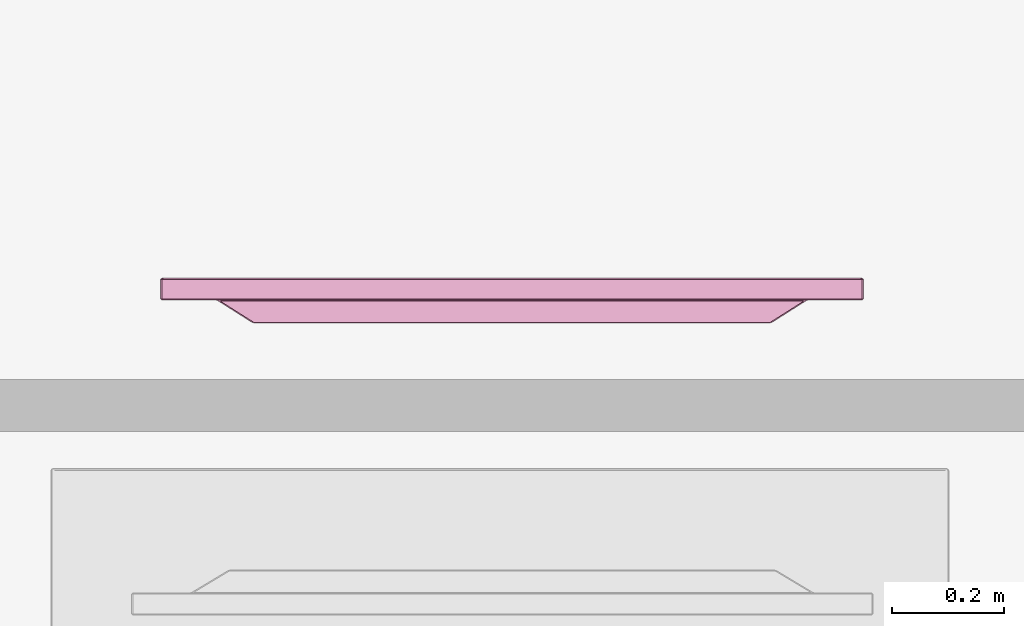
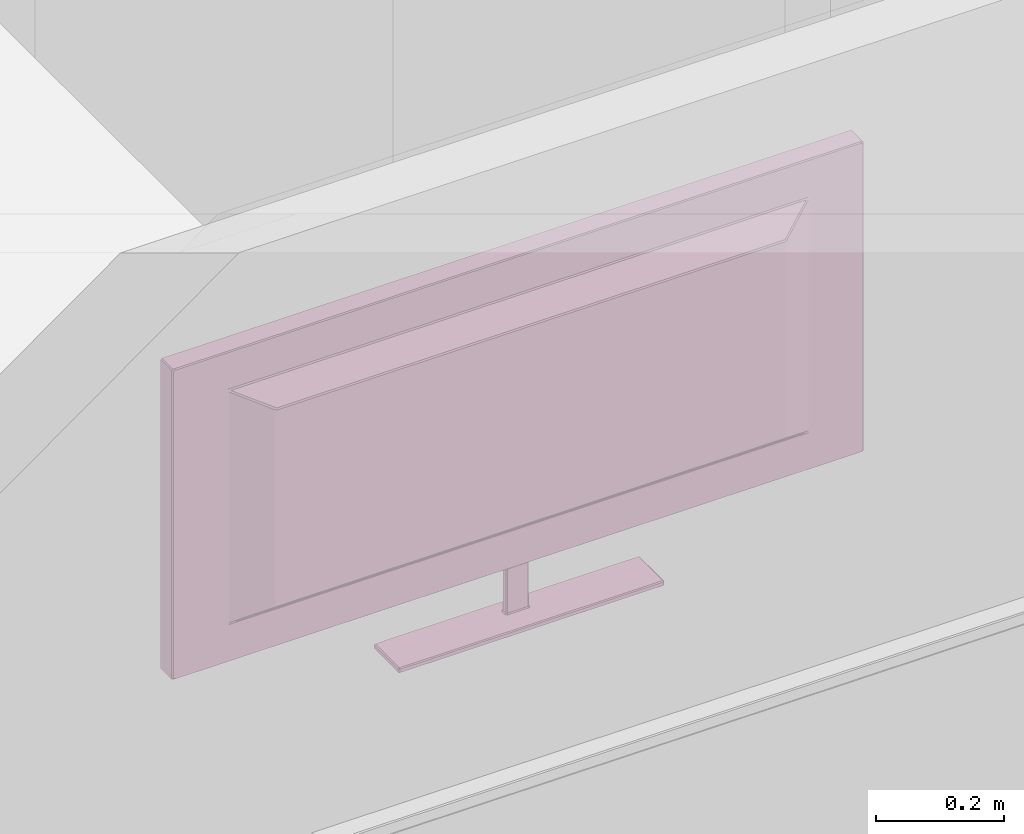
# One storey, part 11 of 26: 1 furnishing.
"""IFC2X3 building model written with IfcOpenShell, lengths in metres."""

from ifc_helpers import new_model, si_unit, direction, frame, origin_with_axes, place, context, project, spatial, faceted_brep, type_object, element, save


model = new_model("IFC2X3")

# Units and contexts
model_context = context("Model", 3, precision=1e-05, world=origin_with_axes(), true_north=direction((0.996, -0.093, 0.0)))
ifc_project = project(units=[si_unit("AREAUNIT", "SQUARE_METRE"), si_unit("LENGTHUNIT", "METRE")], contexts=[model_context])

# Site, building, storey, space
site_placement = place(None, origin_with_axes())
site = spatial("IfcSite", under=ifc_project, at=site_placement, Name="Site", CompositionType="ELEMENT")
building_placement = place(site_placement, origin_with_axes())
building = spatial("IfcBuilding", under=site, at=building_placement, Name="Building", CompositionType="ELEMENT")
storey_placement = place(building_placement, frame((0.0, 0.0, 0.0500001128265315), z_axis=(0.0, 0.0, 1.0), x_axis=(1.0, 0.0, 0.0)))
storey = spatial("IfcBuildingStorey", under=building, at=storey_placement, Name="Story 0", CompositionType="ELEMENT", Elevation=0.0499999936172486)
space_placement = place(storey_placement, frame((9.93548426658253, 0.86198421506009, 0.0), z_axis=(0.0, 0.0, 1.0), x_axis=(1.0, 0.0, 0.0)))
space = spatial("IfcSpace", under=storey, at=space_placement, Name="004", CompositionType="ELEMENT", InteriorOrExteriorSpace="INTERNAL")

# Furnishing
furniture_type = type_object("IfcFurnitureType", Name="121bcabd-cec8-41ad-af8a-2cd054b7433c")
furnishing_placement = place(space_placement, frame((-1.18565783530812, 0.140154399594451, 1.85515781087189), z_axis=(0.0, 0.0, 0.999999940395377), x_axis=(0.0, 0.999999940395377, 0.0)))
element("IfcFurnishingElement", 1, at=furnishing_placement, inside=space, type_object=furniture_type, Name="Television", ObjectType="Television", context=model_context, shape_type="Brep", body=[
    faceted_brep([(0.0288, -0.5938, -0.2046), (0.0288, 0.5938, -0.2046), (0.0288, -0.5962, -0.2027), (0.0288, -0.5962, 0.3207), (0.0288, -0.5962, -0.2027), (0.0288, -0.5938, 0.3226), (0.0288, 0.5938, 0.3226), (0.0288, -0.5938, 0.3226), (0.0288, 0.5962, 0.3207), (0.0288, -0.5938, 0.3226), (0.0288, -0.5962, -0.2027), (0.0288, 0.5962, 0.3207), (0.0288, -0.5962, -0.2027), (0.0288, 0.5938, -0.2046), (0.0288, 0.5962, 0.3207), (0.0288, 0.5938, -0.2046), (0.0288, 0.5962, -0.2027), (0.0288, 0.5962, 0.3207), (0.003, -0.6262, 0.3441), (0.003, -0.6262, -0.2467), (0.038, -0.6262, 0.3441), (0.038, -0.6262, -0.2467), (0.038, -0.6262, 0.3441), (0.003, -0.6262, -0.2467), (0.003, 0.6262, -0.2467), (0.003, 0.6262, 0.3441), (0.038, 0.6262, -0.2467), (0.038, 0.6262, 0.3441), (0.038, 0.6262, -0.2467), (0.003, 0.6262, 0.3441), (0.003, 0.6239, 0.3459), (0.003, -0.6239, 0.3459), (0.038, 0.6239, 0.3459), (0.038, -0.6239, 0.3459), (0.038, 0.6239, 0.3459), (0.003, -0.6239, 0.3459), (0.0143, -0.0216, -0.2272), (0.0062, -0.0216, -0.2272), (0.0143, -0.0216, -0.3341), (0.0062, -0.0216, -0.3341), (0.0143, -0.0216, -0.3341), (0.0062, -0.0216, -0.2272), (0.0162, 0.0171, -0.2272), (0.0162, -0.0193, -0.2272), (0.0162, 0.0171, -0.3341), (0.0162, -0.0193, -0.3341), (0.0162, 0.0171, -0.3341), (0.0162, -0.0193, -0.2272), (0.0062, 0.0195, -0.2272), (0.0143, 0.0195, -0.2272), (0.0062, 0.0195, -0.3341), (0.0143, 0.0195, -0.3341), (0.0062, 0.0195, -0.3341), (0.0143, 0.0195, -0.2272), (-0.04, 0.459, -0.1392), (-0.04, -0.459, -0.1392), (-0.04, 0.459, 0.2367), (-0.04, -0.459, 0.2367), (-0.04, 0.459, 0.2367), (-0.04, -0.459, -0.1392), (0.0043, 0.0171, -0.3341), (0.0043, -0.0193, -0.3341), (0.0043, 0.0171, -0.2272), (0.0043, -0.0193, -0.2272), (0.0043, 0.0171, -0.2272), (0.0043, -0.0193, -0.3341), (0.038, -0.6239, -0.2485), (0.003, -0.6239, -0.2485), (0.038, 0.6239, -0.2485), (0.003, 0.6239, -0.2485), (0.038, 0.6239, -0.2485), (0.003, -0.6239, -0.2485), (-0.0379, -0.2395, -0.3459), (-0.0379, 0.2374, -0.3459), (0.0382, -0.2395, -0.3459), (0.0382, 0.2374, -0.3459), (0.0382, -0.2395, -0.3459), (-0.0379, 0.2374, -0.3459), (0.0399, -0.5994, -0.21), (0.0399, -0.6225, -0.2467), (0.0399, 0.5994, -0.21), (0.0399, 0.6225, -0.2467), (0.0399, 0.5994, -0.21), (0.0399, -0.6225, -0.2467), (0.0399, -0.6032, 0.3255), (0.0399, -0.6239, 0.3416), (0.0399, -0.6032, -0.2078), (0.0399, -0.6239, -0.2407), (0.0399, -0.6032, -0.2078), (0.0399, -0.6239, 0.3416), (0.0399, 0.5999, 0.328), (0.0399, 0.6206, 0.3441), (0.0399, -0.5999, 0.328), (0.0399, -0.6206, 0.3441), (0.0399, -0.5999, 0.328), (0.0399, 0.6206, 0.3441), (0.0399, 0.6239, -0.2407), (0.0399, 0.6239, 0.3416), (0.0399, 0.6032, -0.2078), (0.0399, 0.6032, 0.3255), (0.0399, 0.6032, -0.2078), (0.0399, 0.6239, 0.3416), (0.0288, -0.5938, -0.2046), (0.0381, -0.5977, -0.2076), (0.0288, 0.5938, -0.2046), (0.0381, 0.5977, -0.2076), (0.0288, 0.5938, -0.2046), (0.0381, -0.5977, -0.2076), (0.0288, -0.5962, 0.3207), (0.0381, -0.6001, 0.3238), (0.0288, -0.5962, -0.2027), (0.0381, -0.6001, -0.2057), (0.0288, -0.5962, -0.2027), (0.0381, -0.6001, 0.3238), (0.0288, 0.5938, 0.3226), (0.0381, 0.5977, 0.3256), (0.0288, -0.5938, 0.3226), (0.0381, -0.5977, 0.3256), (0.0288, -0.5938, 0.3226), (0.0381, 0.5977, 0.3256), (0.0288, 0.5962, -0.2027), (0.0381, 0.6001, -0.2057), (0.0288, 0.5962, 0.3207), (0.0381, 0.6001, 0.3238), (0.0288, 0.5962, 0.3207), (0.0381, 0.6001, -0.2057), (0.0011, -0.5286, -0.1742), (0.0011, -0.6239, -0.2443), (0.0011, -0.5286, 0.2717), (0.0011, -0.6239, 0.3418), (0.0011, -0.5286, 0.2717), (0.0011, -0.6239, -0.2443), (0.0011, 0.5254, -0.1768), (0.0011, 0.6204, -0.2467), (0.0011, -0.5254, -0.1768), (0.0011, -0.6204, -0.2467), (0.0011, -0.5254, -0.1768), (0.0011, 0.6204, -0.2467), (0.0011, 0.5286, 0.2717), (0.0011, 0.6239, 0.3418), (0.0011, 0.5286, -0.1742), (0.0011, 0.6239, -0.2443), (0.0011, 0.5286, -0.1742), (0.0011, 0.6239, 0.3418), (0.0011, -0.5254, 0.2743), (0.0011, -0.6204, 0.3441), (0.0011, 0.5254, 0.2743), (0.0011, 0.6204, 0.3441), (0.0011, 0.5254, 0.2743), (0.0011, -0.6204, 0.3441), (-0.0389, -0.4632, 0.2374), (-0.0389, -0.4632, -0.14), (0.0, -0.5245, 0.2695), (0.0, -0.5245, -0.172), (0.0, -0.5245, 0.2695), (-0.0389, -0.4632, -0.14), (-0.0386, -0.4603, -0.1422), (-0.0386, 0.4603, -0.1422), (-0.0003, -0.5209, -0.1738), (-0.0003, 0.5209, -0.1738), (-0.0003, -0.5209, -0.1738), (-0.0386, 0.4603, -0.1422), (-0.0389, 0.4632, -0.14), (-0.0389, 0.4632, 0.2374), (0.0, 0.5245, -0.172), (0.0, 0.5245, 0.2695), (0.0, 0.5245, -0.172), (-0.0389, 0.4632, 0.2374), (-0.0386, 0.4603, 0.2397), (-0.0386, -0.4603, 0.2397), (-0.0003, 0.5209, 0.2713), (-0.0003, -0.5209, 0.2713), (-0.0003, 0.5209, 0.2713), (-0.0386, -0.4603, 0.2397), (0.04, 0.2374, -0.3441), (0.04, 0.2374, -0.3378), (0.04, -0.2395, -0.3441), (0.04, -0.2395, -0.3378), (0.04, -0.2395, -0.3441), (0.04, 0.2374, -0.3378), (-0.0379, 0.2397, -0.3441), (-0.0379, 0.2397, -0.3378), (0.0382, 0.2397, -0.3441), (0.0382, 0.2397, -0.3378), (0.0382, 0.2397, -0.3441), (-0.0379, 0.2397, -0.3378), (-0.0397, -0.2395, -0.3441), (-0.0397, -0.2395, -0.3378), (-0.0397, 0.2374, -0.3441), (-0.0397, 0.2374, -0.3378), (-0.0397, 0.2374, -0.3441), (-0.0397, -0.2395, -0.3378), (0.0382, -0.2418, -0.3441), (0.0382, -0.2418, -0.3378), (-0.0379, -0.2418, -0.3441), (-0.0379, -0.2418, -0.3378), (-0.0379, -0.2418, -0.3441), (0.0382, -0.2418, -0.3378), (-0.0374, -0.2395, -0.336), (0.0379, -0.2395, -0.336), (0.0058, -0.0239, -0.336), (0.0146, -0.0239, -0.336), (0.0058, -0.0239, -0.336), (0.0379, -0.2395, -0.336), (0.0025, 0.0192, -0.336), (-0.0379, 0.221, -0.336), (0.0025, -0.0213, -0.336), (-0.0379, -0.2231, -0.336), (0.0025, -0.0213, -0.336), (-0.0379, 0.221, -0.336), (0.0146, 0.0218, -0.336), (0.0379, 0.2374, -0.336), (0.0058, 0.0218, -0.336), (-0.0374, 0.2374, -0.336), (0.0058, 0.0218, -0.336), (0.0379, 0.2374, -0.336), (0.018, -0.0214, -0.336), (0.0382, -0.2076, -0.336), (0.018, 0.0193, -0.336), (0.0382, 0.2055, -0.336), (0.018, 0.0193, -0.336), (0.0382, -0.2076, -0.336), (0.0346, -0.6125, -0.2149), (0.0346, 0.6125, -0.2149), (0.0346, -0.6125, 0.333), (0.0346, 0.6125, 0.333), (0.0346, -0.6125, 0.333), (0.0346, 0.6125, -0.2149), (0.0399, -0.6206, 0.3441), (0.038, -0.6239, 0.3459), (0.0399, -0.6239, 0.3416), (0.038, -0.6262, 0.3441), (0.0399, -0.6239, 0.3416), (0.038, -0.6239, 0.3459), (0.0011, 0.6204, 0.3441), (0.003, 0.6239, 0.3459), (0.0011, 0.6239, 0.3418), (0.003, 0.6262, 0.3441), (0.0011, 0.6239, 0.3418), (0.003, 0.6239, 0.3459), (0.0399, 0.6239, 0.3416), (0.038, 0.6262, 0.3441), (0.0399, 0.6206, 0.3441), (0.038, 0.6239, 0.3459), (0.0399, 0.6206, 0.3441), (0.038, 0.6262, 0.3441), (0.0058, -0.0239, -0.336), (0.0062, -0.0216, -0.3341), (0.0025, -0.0213, -0.336), (0.0043, -0.0193, -0.3341), (0.0025, -0.0213, -0.336), (0.0062, -0.0216, -0.3341), (0.0146, -0.0239, -0.336), (0.018, -0.0214, -0.336), (0.0143, -0.0216, -0.3341), (0.0162, -0.0193, -0.3341), (0.0143, -0.0216, -0.3341), (0.018, -0.0214, -0.336), (0.0146, 0.0218, -0.336), (0.0143, 0.0195, -0.3341), (0.018, 0.0193, -0.336), (0.0162, 0.0171, -0.3341), (0.018, 0.0193, -0.336), (0.0143, 0.0195, -0.3341), (-0.0386, -0.4603, 0.2397), (-0.04, -0.459, 0.2367), (-0.0389, -0.4632, 0.2374), (0.0058, 0.0218, -0.336), (0.0025, 0.0192, -0.336), (0.0062, 0.0195, -0.3341), (0.0043, 0.0171, -0.3341), (0.0062, 0.0195, -0.3341), (0.0025, 0.0192, -0.336), (0.0011, -0.6204, -0.2467), (0.003, -0.6239, -0.2485), (0.0011, -0.6239, -0.2443), (0.003, -0.6262, -0.2467), (0.0011, -0.6239, -0.2443), (0.003, -0.6239, -0.2485), (0.0399, -0.6239, -0.2407), (0.038, -0.6262, -0.2467), (0.0399, -0.6225, -0.2467), (0.038, -0.6239, -0.2485), (0.0399, -0.6225, -0.2467), (0.038, -0.6262, -0.2467), (0.0382, -0.2418, -0.3441), (0.0382, -0.2395, -0.3459), (0.04, -0.2395, -0.3441), (0.0399, 0.6239, -0.2407), (0.0399, 0.6225, -0.2467), (0.038, 0.6262, -0.2467), (0.038, 0.6239, -0.2485), (0.038, 0.6262, -0.2467), (0.0399, 0.6225, -0.2467), (0.0381, -0.6001, -0.2057), (0.0399, -0.6032, -0.2078), (0.0381, -0.5977, -0.2076), (0.0399, -0.5994, -0.21), (0.0381, -0.5977, -0.2076), (0.0399, -0.6032, -0.2078), (0.0381, -0.5977, 0.3256), (0.0399, -0.5999, 0.328), (0.0381, -0.6001, 0.3238), (0.0399, -0.6032, 0.3255), (0.0381, -0.6001, 0.3238), (0.0399, -0.5999, 0.328), (0.0381, 0.6001, 0.3238), (0.0399, 0.6032, 0.3255), (0.0381, 0.5977, 0.3256), (0.0399, 0.5999, 0.328), (0.0381, 0.5977, 0.3256), (0.0399, 0.6032, 0.3255), (0.0381, 0.6001, -0.2057), (0.0381, 0.5977, -0.2076), (0.0399, 0.6032, -0.2078), (0.0399, 0.5994, -0.21), (0.0399, 0.6032, -0.2078), (0.0381, 0.5977, -0.2076), (0.0011, -0.6204, 0.3441), (0.0011, -0.6239, 0.3418), (0.003, -0.6239, 0.3459), (0.003, -0.6262, 0.3441), (0.003, -0.6239, 0.3459), (0.0011, -0.6239, 0.3418), (-0.0003, -0.5209, 0.2713), (0.0, -0.5245, 0.2695), (0.0011, -0.5254, 0.2743), (0.0011, -0.5286, 0.2717), (0.0011, -0.5254, 0.2743), (0.0, -0.5245, 0.2695), (-0.0003, -0.5209, -0.1738), (0.0011, -0.5254, -0.1768), (0.0, -0.5245, -0.172), (0.0011, -0.5286, -0.1742), (0.0, -0.5245, -0.172), (0.0011, -0.5254, -0.1768), (0.0011, 0.6204, -0.2467), (0.0011, 0.6239, -0.2443), (0.003, 0.6239, -0.2485), (0.003, 0.6262, -0.2467), (0.003, 0.6239, -0.2485), (0.0011, 0.6239, -0.2443), (-0.0003, 0.5209, -0.1738), (0.0, 0.5245, -0.172), (0.0011, 0.5254, -0.1768), (0.0011, 0.5286, -0.1742), (0.0011, 0.5254, -0.1768), (0.0, 0.5245, -0.172), (-0.0003, 0.5209, 0.2713), (0.0011, 0.5254, 0.2743), (0.0, 0.5245, 0.2695), (0.0011, 0.5286, 0.2717), (0.0, 0.5245, 0.2695), (0.0011, 0.5254, 0.2743), (-0.0386, -0.4603, -0.1422), (-0.0389, -0.4632, -0.14), (-0.04, -0.459, -0.1392), (-0.0389, 0.4632, -0.14), (-0.0386, 0.4603, -0.1422), (-0.04, 0.459, -0.1392), (-0.0386, 0.4603, 0.2397), (-0.0389, 0.4632, 0.2374), (-0.04, 0.459, 0.2367), (0.0382, 0.2397, -0.3441), (0.04, 0.2374, -0.3441), (0.0382, 0.2374, -0.3459), (-0.0397, 0.2374, -0.3441), (-0.0379, 0.2397, -0.3441), (-0.0379, 0.2374, -0.3459), (-0.0379, -0.2418, -0.3441), (-0.0397, -0.2395, -0.3441), (-0.0379, -0.2395, -0.3459), (-0.0379, -0.2231, -0.336), (-0.0397, -0.2395, -0.3378), (-0.0374, -0.2395, -0.336), (-0.0379, -0.2418, -0.3378), (-0.0374, -0.2395, -0.336), (-0.0397, -0.2395, -0.3378), (0.0382, -0.2076, -0.336), (0.0379, -0.2395, -0.336), (0.04, -0.2395, -0.3378), (0.0382, -0.2418, -0.3378), (0.04, -0.2395, -0.3378), (0.0379, -0.2395, -0.336), (-0.0379, 0.221, -0.336), (-0.0374, 0.2374, -0.336), (-0.0397, 0.2374, -0.3378), (-0.0379, 0.2397, -0.3378), (-0.0397, 0.2374, -0.3378), (-0.0374, 0.2374, -0.336), (0.0382, 0.2397, -0.3378), (0.0379, 0.2374, -0.336), (0.04, 0.2374, -0.3378), (0.0382, 0.2055, -0.336), (0.04, 0.2374, -0.3378), (0.0379, 0.2374, -0.336), (0.038, -0.6262, -0.2467), (0.003, -0.6262, -0.2467), (0.038, -0.6239, -0.2485), (0.003, -0.6239, -0.2485), (0.038, -0.6239, -0.2485), (0.003, -0.6262, -0.2467), (0.003, -0.6262, 0.3441), (0.038, -0.6262, 0.3441), (0.003, -0.6239, 0.3459), (0.038, -0.6239, 0.3459), (0.003, -0.6239, 0.3459), (0.038, -0.6262, 0.3441), (0.038, 0.6262, 0.3441), (0.003, 0.6262, 0.3441), (0.038, 0.6239, 0.3459), (0.003, 0.6239, 0.3459), (0.038, 0.6239, 0.3459), (0.003, 0.6262, 0.3441), (0.003, 0.6262, -0.2467), (0.038, 0.6262, -0.2467), (0.003, 0.6239, -0.2485), (0.038, 0.6239, -0.2485), (0.003, 0.6239, -0.2485), (0.038, 0.6262, -0.2467), (0.0062, -0.0216, -0.3341), (0.0062, -0.0216, -0.2272), (0.0043, -0.0193, -0.3341), (0.0043, -0.0193, -0.2272), (0.0043, -0.0193, -0.3341), (0.0062, -0.0216, -0.2272), (0.0143, -0.0216, -0.2272), (0.0143, -0.0216, -0.3341), (0.0162, -0.0193, -0.2272), (0.0162, -0.0193, -0.3341), (0.0162, -0.0193, -0.2272), (0.0143, -0.0216, -0.3341), (0.0162, 0.0171, -0.2272), (0.0162, 0.0171, -0.3341), (0.0143, 0.0195, -0.2272), (0.0143, 0.0195, -0.3341), (0.0143, 0.0195, -0.2272), (0.0162, 0.0171, -0.3341), (0.0062, 0.0195, -0.2272), (0.0062, 0.0195, -0.3341), (0.0043, 0.0171, -0.2272), (0.0043, 0.0171, -0.3341), (0.0043, 0.0171, -0.2272), (0.0062, 0.0195, -0.3341), (-0.04, -0.459, 0.2367), (-0.04, -0.459, -0.1392), (-0.0389, -0.4632, 0.2374), (-0.0389, -0.4632, -0.14), (-0.0389, -0.4632, 0.2374), (-0.04, -0.459, -0.1392), (-0.04, -0.459, -0.1392), (-0.04, 0.459, -0.1392), (-0.0386, -0.4603, -0.1422), (-0.0386, 0.4603, -0.1422), (-0.0386, -0.4603, -0.1422), (-0.04, 0.459, -0.1392), (-0.04, 0.459, -0.1392), (-0.04, 0.459, 0.2367), (-0.0389, 0.4632, -0.14), (-0.0389, 0.4632, 0.2374), (-0.0389, 0.4632, -0.14), (-0.04, 0.459, 0.2367), (-0.04, 0.459, 0.2367), (-0.04, -0.459, 0.2367), (-0.0386, 0.4603, 0.2397), (-0.0386, -0.4603, 0.2397), (-0.0386, 0.4603, 0.2397), (-0.04, -0.459, 0.2367), (0.0382, 0.2374, -0.3459), (-0.0379, 0.2374, -0.3459), (0.0382, 0.2397, -0.3441), (-0.0379, 0.2397, -0.3441), (0.0382, 0.2397, -0.3441), (-0.0379, 0.2374, -0.3459), (-0.0379, 0.2374, -0.3459), (-0.0379, -0.2395, -0.3459), (-0.0397, 0.2374, -0.3441), (-0.0397, -0.2395, -0.3441), (-0.0397, 0.2374, -0.3441), (-0.0379, -0.2395, -0.3459), (-0.0379, -0.2395, -0.3459), (0.0382, -0.2395, -0.3459), (-0.0379, -0.2418, -0.3441), (0.0382, -0.2418, -0.3441), (-0.0379, -0.2418, -0.3441), (0.0382, -0.2395, -0.3459), (0.0382, -0.2395, -0.3459), (0.0382, 0.2374, -0.3459), (0.04, -0.2395, -0.3441), (0.04, 0.2374, -0.3441), (0.04, -0.2395, -0.3441), (0.0382, 0.2374, -0.3459), (0.0399, 0.6225, -0.2467), (0.0399, -0.6225, -0.2467), (0.038, 0.6239, -0.2485), (0.038, -0.6239, -0.2485), (0.038, 0.6239, -0.2485), (0.0399, -0.6225, -0.2467), (0.0399, -0.6225, -0.2467), (0.0399, -0.5994, -0.21), (0.0399, -0.6239, -0.2407), (0.0399, -0.6032, -0.2078), (0.0399, -0.6239, -0.2407), (0.0399, -0.5994, -0.21), (0.0399, -0.6239, -0.2407), (0.0399, -0.6239, 0.3416), (0.038, -0.6262, -0.2467), (0.038, -0.6262, 0.3441), (0.038, -0.6262, -0.2467), (0.0399, -0.6239, 0.3416), (0.0399, -0.6239, 0.3416), (0.0399, -0.6032, 0.3255), (0.0399, -0.6206, 0.3441), (0.0399, -0.5999, 0.328), (0.0399, -0.6206, 0.3441), (0.0399, -0.6032, 0.3255), (0.0399, -0.6206, 0.3441), (0.0399, 0.6206, 0.3441), (0.038, -0.6239, 0.3459), (0.038, 0.6239, 0.3459), (0.038, -0.6239, 0.3459), (0.0399, 0.6206, 0.3441), (0.0399, 0.6206, 0.3441), (0.0399, 0.5999, 0.328), (0.0399, 0.6239, 0.3416), (0.0399, 0.6032, 0.3255), (0.0399, 0.6239, 0.3416), (0.0399, 0.5999, 0.328), (0.0399, 0.6239, 0.3416), (0.0399, 0.6239, -0.2407), (0.038, 0.6262, 0.3441), (0.038, 0.6262, -0.2467), (0.038, 0.6262, 0.3441), (0.0399, 0.6239, -0.2407), (0.0399, 0.6239, -0.2407), (0.0399, 0.6032, -0.2078), (0.0399, 0.6225, -0.2467), (0.0399, 0.5994, -0.21), (0.0399, 0.6225, -0.2467), (0.0399, 0.6032, -0.2078), (0.0381, 0.5977, -0.2076), (0.0381, -0.5977, -0.2076), (0.0399, 0.5994, -0.21), (0.0399, -0.5994, -0.21), (0.0399, 0.5994, -0.21), (0.0381, -0.5977, -0.2076), (0.0381, -0.5977, -0.2076), (0.0288, -0.5938, -0.2046), (0.0381, -0.6001, -0.2057), (0.0288, -0.5962, -0.2027), (0.0381, -0.6001, -0.2057), (0.0288, -0.5938, -0.2046), (0.0381, -0.6001, -0.2057), (0.0381, -0.6001, 0.3238), (0.0399, -0.6032, -0.2078), (0.0399, -0.6032, 0.3255), (0.0399, -0.6032, -0.2078), (0.0381, -0.6001, 0.3238), (0.0381, -0.6001, 0.3238), (0.0288, -0.5962, 0.3207), (0.0381, -0.5977, 0.3256), (0.0288, -0.5938, 0.3226), (0.0381, -0.5977, 0.3256), (0.0288, -0.5962, 0.3207), (0.0381, -0.5977, 0.3256), (0.0381, 0.5977, 0.3256), (0.0399, -0.5999, 0.328), (0.0399, 0.5999, 0.328), (0.0399, -0.5999, 0.328), (0.0381, 0.5977, 0.3256), (0.0381, 0.5977, 0.3256), (0.0288, 0.5938, 0.3226), (0.0381, 0.6001, 0.3238), (0.0288, 0.5962, 0.3207), (0.0381, 0.6001, 0.3238), (0.0288, 0.5938, 0.3226), (0.0381, 0.6001, 0.3238), (0.0381, 0.6001, -0.2057), (0.0399, 0.6032, 0.3255), (0.0399, 0.6032, -0.2078), (0.0399, 0.6032, 0.3255), (0.0381, 0.6001, -0.2057), (0.0381, 0.6001, -0.2057), (0.0288, 0.5962, -0.2027), (0.0381, 0.5977, -0.2076), (0.0288, 0.5938, -0.2046), (0.0381, 0.5977, -0.2076), (0.0288, 0.5962, -0.2027), (0.0011, -0.6239, 0.3418), (0.0011, -0.6239, -0.2443), (0.003, -0.6262, 0.3441), (0.003, -0.6262, -0.2467), (0.003, -0.6262, 0.3441), (0.0011, -0.6239, -0.2443), (0.0011, -0.6239, -0.2443), (0.0011, -0.5286, -0.1742), (0.0011, -0.6204, -0.2467), (0.0011, -0.5254, -0.1768), (0.0011, -0.6204, -0.2467), (0.0011, -0.5286, -0.1742), (0.0011, -0.5286, -0.1742), (0.0011, -0.5286, 0.2717), (0.0, -0.5245, -0.172), (0.0, -0.5245, 0.2695), (0.0, -0.5245, -0.172), (0.0011, -0.5286, 0.2717), (0.0011, -0.6204, -0.2467), (0.0011, 0.6204, -0.2467), (0.003, -0.6239, -0.2485), (0.003, 0.6239, -0.2485), (0.003, -0.6239, -0.2485), (0.0011, 0.6204, -0.2467), (0.0011, 0.6204, -0.2467), (0.0011, 0.5254, -0.1768), (0.0011, 0.6239, -0.2443), (0.0011, 0.5286, -0.1742), (0.0011, 0.6239, -0.2443), (0.0011, 0.5254, -0.1768), (0.0011, 0.5254, -0.1768), (0.0011, -0.5254, -0.1768), (-0.0003, 0.5209, -0.1738), (-0.0003, -0.5209, -0.1738), (-0.0003, 0.5209, -0.1738), (0.0011, -0.5254, -0.1768), (0.0011, 0.6239, -0.2443), (0.0011, 0.6239, 0.3418), (0.003, 0.6262, -0.2467), (0.003, 0.6262, 0.3441), (0.003, 0.6262, -0.2467), (0.0011, 0.6239, 0.3418), (0.0011, 0.6239, 0.3418), (0.0011, 0.5286, 0.2717), (0.0011, 0.6204, 0.3441), (0.0011, 0.5254, 0.2743), (0.0011, 0.6204, 0.3441), (0.0011, 0.5286, 0.2717), (0.0011, 0.5286, 0.2717), (0.0011, 0.5286, -0.1742), (0.0, 0.5245, 0.2695), (0.0, 0.5245, -0.172), (0.0, 0.5245, 0.2695), (0.0011, 0.5286, -0.1742), (0.0011, 0.6204, 0.3441), (0.0011, -0.6204, 0.3441), (0.003, 0.6239, 0.3459), (0.003, -0.6239, 0.3459), (0.003, 0.6239, 0.3459), (0.0011, -0.6204, 0.3441), (0.0011, -0.6204, 0.3441), (0.0011, -0.5254, 0.2743), (0.0011, -0.6239, 0.3418), (0.0011, -0.5286, 0.2717), (0.0011, -0.6239, 0.3418), (0.0011, -0.5254, 0.2743), (0.0011, -0.5254, 0.2743), (0.0011, 0.5254, 0.2743), (-0.0003, -0.5209, 0.2713), (-0.0003, 0.5209, 0.2713), (-0.0003, -0.5209, 0.2713), (0.0011, 0.5254, 0.2743), (0.0, -0.5245, -0.172), (-0.0389, -0.4632, -0.14), (-0.0003, -0.5209, -0.1738), (-0.0386, -0.4603, -0.1422), (-0.0003, -0.5209, -0.1738), (-0.0389, -0.4632, -0.14), (-0.0003, 0.5209, -0.1738), (-0.0386, 0.4603, -0.1422), (0.0, 0.5245, -0.172), (-0.0389, 0.4632, -0.14), (0.0, 0.5245, -0.172), (-0.0386, 0.4603, -0.1422), (0.0, 0.5245, 0.2695), (-0.0389, 0.4632, 0.2374), (-0.0003, 0.5209, 0.2713), (-0.0386, 0.4603, 0.2397), (-0.0003, 0.5209, 0.2713), (-0.0389, 0.4632, 0.2374), (-0.0003, -0.5209, 0.2713), (-0.0386, -0.4603, 0.2397), (0.0, -0.5245, 0.2695), (-0.0389, -0.4632, 0.2374), (0.0, -0.5245, 0.2695), (-0.0386, -0.4603, 0.2397), (0.04, 0.2374, -0.3378), (0.04, 0.2374, -0.3441), (0.0382, 0.2397, -0.3378), (0.0382, 0.2397, -0.3441), (0.0382, 0.2397, -0.3378), (0.04, 0.2374, -0.3441), (-0.0379, 0.2397, -0.3378), (-0.0379, 0.2397, -0.3441), (-0.0397, 0.2374, -0.3378), (-0.0397, 0.2374, -0.3441), (-0.0397, 0.2374, -0.3378), (-0.0379, 0.2397, -0.3441), (-0.0397, -0.2395, -0.3378), (-0.0397, -0.2395, -0.3441), (-0.0379, -0.2418, -0.3378), (-0.0379, -0.2418, -0.3441), (-0.0379, -0.2418, -0.3378), (-0.0397, -0.2395, -0.3441), (0.0382, -0.2418, -0.3378), (0.0382, -0.2418, -0.3441), (0.04, -0.2395, -0.3378), (0.04, -0.2395, -0.3441), (0.04, -0.2395, -0.3378), (0.0382, -0.2418, -0.3441), (0.0379, -0.2395, -0.336), (-0.0374, -0.2395, -0.336), (0.0382, -0.2418, -0.3378), (-0.0379, -0.2418, -0.3378), (0.0382, -0.2418, -0.3378), (-0.0374, -0.2395, -0.336), (-0.0374, -0.2395, -0.336), (0.0058, -0.0239, -0.336), (-0.0379, -0.2231, -0.336), (0.0025, -0.0213, -0.336), (-0.0379, -0.2231, -0.336), (0.0058, -0.0239, -0.336), (0.0058, -0.0239, -0.336), (0.0146, -0.0239, -0.336), (0.0062, -0.0216, -0.3341), (0.0143, -0.0216, -0.3341), (0.0062, -0.0216, -0.3341), (0.0146, -0.0239, -0.336), (-0.0379, -0.2231, -0.336), (-0.0379, 0.221, -0.336), (-0.0397, -0.2395, -0.3378), (-0.0397, 0.2374, -0.3378), (-0.0397, -0.2395, -0.3378), (-0.0379, 0.221, -0.336), (-0.0379, 0.221, -0.336), (0.0025, 0.0192, -0.336), (-0.0374, 0.2374, -0.336), (0.0058, 0.0218, -0.336), (-0.0374, 0.2374, -0.336), (0.0025, 0.0192, -0.336), (0.0025, 0.0192, -0.336), (0.0025, -0.0213, -0.336), (0.0043, 0.0171, -0.3341), (0.0043, -0.0193, -0.3341), (0.0043, 0.0171, -0.3341), (0.0025, -0.0213, -0.336), (-0.0374, 0.2374, -0.336), (0.0379, 0.2374, -0.336), (-0.0379, 0.2397, -0.3378), (0.0382, 0.2397, -0.3378), (-0.0379, 0.2397, -0.3378), (0.0379, 0.2374, -0.336), (0.0379, 0.2374, -0.336), (0.0146, 0.0218, -0.336), (0.0382, 0.2055, -0.336), (0.018, 0.0193, -0.336), (0.0382, 0.2055, -0.336), (0.0146, 0.0218, -0.336), (0.0146, 0.0218, -0.336), (0.0058, 0.0218, -0.336), (0.0143, 0.0195, -0.3341), (0.0062, 0.0195, -0.3341), (0.0143, 0.0195, -0.3341), (0.0058, 0.0218, -0.336), (0.0382, 0.2055, -0.336), (0.0382, -0.2076, -0.336), (0.04, 0.2374, -0.3378), (0.04, -0.2395, -0.3378), (0.04, 0.2374, -0.3378), (0.0382, -0.2076, -0.336), (0.0382, -0.2076, -0.336), (0.018, -0.0214, -0.336), (0.0379, -0.2395, -0.336), (0.0146, -0.0239, -0.336), (0.0379, -0.2395, -0.336), (0.018, -0.0214, -0.336), (0.018, -0.0214, -0.336), (0.018, 0.0193, -0.336), (0.0162, -0.0193, -0.3341), (0.0162, 0.0171, -0.3341), (0.0162, -0.0193, -0.3341), (0.018, 0.0193, -0.336)], [[[0, 1, 2]], [[3, 4, 5]], [[6, 7, 8]], [[9, 10, 11]], [[12, 13, 14]], [[15, 16, 17]], [[18, 19, 20]], [[21, 22, 23]], [[24, 25, 26]], [[27, 28, 29]], [[30, 31, 32]], [[33, 34, 35]], [[36, 37, 38]], [[39, 40, 41]], [[42, 43, 44]], [[45, 46, 47]], [[48, 49, 50]], [[51, 52, 53]], [[54, 55, 56]], [[57, 58, 59]], [[60, 61, 62]], [[63, 64, 65]], [[66, 67, 68]], [[69, 70, 71]], [[72, 73, 74]], [[75, 76, 77]], [[78, 79, 80]], [[81, 82, 83]], [[84, 85, 86]], [[87, 88, 89]], [[90, 91, 92]], [[93, 94, 95]], [[96, 97, 98]], [[99, 100, 101]], [[102, 103, 104]], [[105, 106, 107]], [[108, 109, 110]], [[111, 112, 113]], [[114, 115, 116]], [[117, 118, 119]], [[120, 121, 122]], [[123, 124, 125]], [[126, 127, 128]], [[129, 130, 131]], [[132, 133, 134]], [[135, 136, 137]], [[138, 139, 140]], [[141, 142, 143]], [[144, 145, 146]], [[147, 148, 149]], [[150, 151, 152]], [[153, 154, 155]], [[156, 157, 158]], [[159, 160, 161]], [[162, 163, 164]], [[165, 166, 167]], [[168, 169, 170]], [[171, 172, 173]], [[174, 175, 176]], [[177, 178, 179]], [[180, 181, 182]], [[183, 184, 185]], [[186, 187, 188]], [[189, 190, 191]], [[192, 193, 194]], [[195, 196, 197]], [[198, 199, 200]], [[201, 202, 203]], [[204, 205, 206]], [[207, 208, 209]], [[210, 211, 212]], [[213, 214, 215]], [[216, 217, 218]], [[219, 220, 221]], [[222, 223, 224]], [[225, 226, 227]], [[228, 229, 230]], [[231, 232, 233]], [[234, 235, 236]], [[237, 238, 239]], [[240, 241, 242]], [[243, 244, 245]], [[246, 247, 248]], [[249, 250, 251]], [[252, 253, 254]], [[255, 256, 257]], [[258, 259, 260]], [[261, 262, 263]], [[264, 265, 266]], [[267, 268, 269]], [[270, 271, 272]], [[273, 274, 275]], [[276, 277, 278]], [[279, 280, 281]], [[282, 283, 284]], [[285, 286, 287]], [[288, 289, 290]], [[291, 292, 293]], [[294, 295, 296]], [[297, 298, 299]], [[300, 301, 302]], [[303, 304, 305]], [[306, 307, 308]], [[309, 310, 311]], [[312, 313, 314]], [[315, 316, 317]], [[318, 319, 320]], [[321, 322, 323]], [[324, 325, 326]], [[327, 328, 329]], [[330, 331, 332]], [[333, 334, 335]], [[336, 337, 338]], [[339, 340, 341]], [[342, 343, 344]], [[345, 346, 347]], [[348, 349, 350]], [[351, 352, 353]], [[354, 355, 356]], [[357, 358, 359]], [[360, 361, 362]], [[363, 364, 365]], [[366, 367, 368]], [[369, 370, 371]], [[372, 373, 374]], [[375, 376, 377]], [[378, 379, 380]], [[381, 382, 383]], [[384, 385, 386]], [[387, 388, 389]], [[390, 391, 392]], [[393, 394, 395]], [[396, 397, 398]], [[399, 400, 401]], [[402, 403, 404]], [[405, 406, 407]], [[408, 409, 410]], [[411, 412, 413]], [[414, 415, 416]], [[417, 418, 419]], [[420, 421, 422]], [[423, 424, 425]], [[426, 427, 428]], [[429, 430, 431]], [[432, 433, 434]], [[435, 436, 437]], [[438, 439, 440]], [[441, 442, 443]], [[444, 445, 446]], [[447, 448, 449]], [[450, 451, 452]], [[453, 454, 455]], [[456, 457, 458]], [[459, 460, 461]], [[462, 463, 464]], [[465, 466, 467]], [[468, 469, 470]], [[471, 472, 473]], [[474, 475, 476]], [[477, 478, 479]], [[480, 481, 482]], [[483, 484, 485]], [[486, 487, 488]], [[489, 490, 491]], [[492, 493, 494]], [[495, 496, 497]], [[498, 499, 500]], [[501, 502, 503]], [[504, 505, 506]], [[507, 508, 509]], [[510, 511, 512]], [[513, 514, 515]], [[516, 517, 518]], [[519, 520, 521]], [[522, 523, 524]], [[525, 526, 527]], [[528, 529, 530]], [[531, 532, 533]], [[534, 535, 536]], [[537, 538, 539]], [[540, 541, 542]], [[543, 544, 545]], [[546, 547, 548]], [[549, 550, 551]], [[552, 553, 554]], [[555, 556, 557]], [[558, 559, 560]], [[561, 562, 563]], [[564, 565, 566]], [[567, 568, 569]], [[570, 571, 572]], [[573, 574, 575]], [[576, 577, 578]], [[579, 580, 581]], [[582, 583, 584]], [[585, 586, 587]], [[588, 589, 590]], [[591, 592, 593]], [[594, 595, 596]], [[597, 598, 599]], [[600, 601, 602]], [[603, 604, 605]], [[606, 607, 608]], [[609, 610, 611]], [[612, 613, 614]], [[615, 616, 617]], [[618, 619, 620]], [[621, 622, 623]], [[624, 625, 626]], [[627, 628, 629]], [[630, 631, 632]], [[633, 634, 635]], [[636, 637, 638]], [[639, 640, 641]], [[642, 643, 644]], [[645, 646, 647]], [[648, 649, 650]], [[651, 652, 653]], [[654, 655, 656]], [[657, 658, 659]], [[660, 661, 662]], [[663, 664, 665]], [[666, 667, 668]], [[669, 670, 671]], [[672, 673, 674]], [[675, 676, 677]], [[678, 679, 680]], [[681, 682, 683]], [[684, 685, 686]], [[687, 688, 689]], [[690, 691, 692]], [[693, 694, 695]], [[696, 697, 698]], [[699, 700, 701]], [[702, 703, 704]], [[705, 706, 707]], [[708, 709, 710]], [[711, 712, 713]], [[714, 715, 716]], [[717, 718, 719]], [[720, 721, 722]], [[723, 724, 725]], [[726, 727, 728]], [[729, 730, 731]], [[732, 733, 734]], [[735, 736, 737]], [[738, 739, 740]], [[741, 742, 743]], [[744, 745, 746]], [[747, 748, 749]], [[750, 751, 752]], [[753, 754, 755]], [[756, 757, 758]], [[759, 760, 761]], [[762, 763, 764]], [[765, 766, 767]], [[768, 769, 770]], [[771, 772, 773]], [[774, 775, 776]], [[777, 778, 779]]]),
])

save(model, "model.ifc")
